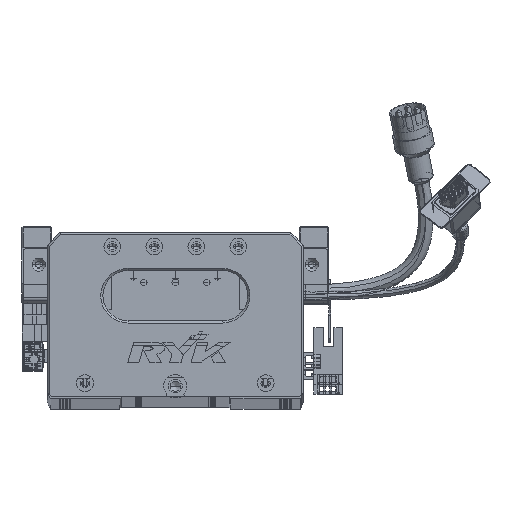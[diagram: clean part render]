
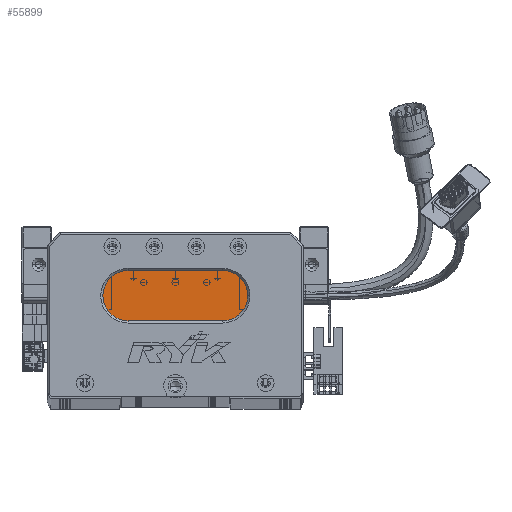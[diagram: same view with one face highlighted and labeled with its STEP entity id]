
A CAD part, top view. The second image highlights one B-rep face of the part: STEP entity #55899.
In plain terms, the highlighted planar face has unit normal (0, 0, 1) as drawn and (0, 0, -1) by its records, which use the part's own axes.
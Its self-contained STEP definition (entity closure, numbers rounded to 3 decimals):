
#5961 = LINE ( 'NONE', #99541, #85860 ) ;
#8367 = CIRCLE ( 'NONE', #51886, 12. ) ;
#11809 = CARTESIAN_POINT ( 'NONE',  ( 83.5, 48., 13. ) ) ;
#12390 = CIRCLE ( 'NONE', #79453, 12. ) ;
#15428 = CIRCLE ( 'NONE', #68297, 12. ) ;
#16461 = CARTESIAN_POINT ( 'NONE',  ( 26.5, 48., 13. ) ) ;
#21139 = FACE_OUTER_BOUND ( 'NONE', #52614, .T. ) ;
#23220 = VERTEX_POINT ( 'NONE', #16461 ) ;
#23917 = ORIENTED_EDGE ( 'NONE', *, *, #126110, .T. ) ;
#25923 = CARTESIAN_POINT ( 'NONE',  ( 38.5, 48., 13. ) ) ;
#26539 = DIRECTION ( 'NONE',  ( -1., 0., 0. ) ) ;
#26634 = DIRECTION ( 'NONE',  ( 1., 0., 0. ) ) ;
#27388 = DIRECTION ( 'NONE',  ( 0., 0., -1. ) ) ;
#28103 = ORIENTED_EDGE ( 'NONE', *, *, #41314, .T. ) ;
#31097 = EDGE_CURVE ( 'NONE', #64631, #60916, #93584, .T. ) ;
#41314 = EDGE_CURVE ( 'NONE', #23220, #64631, #12390, .T. ) ;
#42973 = ORIENTED_EDGE ( 'NONE', *, *, #31097, .T. ) ;
#43015 = CARTESIAN_POINT ( 'NONE',  ( 83.5, 60., 13. ) ) ;
#44607 = EDGE_CURVE ( 'NONE', #54154, #23220, #8367, .T. ) ;
#49102 = VECTOR ( 'NONE', #26634, 1000. ) ;
#51210 = CARTESIAN_POINT ( 'NONE',  ( 38.5, 48., 13. ) ) ;
#51886 = AXIS2_PLACEMENT_3D ( 'NONE', #51210, #101031, #52059 ) ;
#52059 = DIRECTION ( 'NONE',  ( -1., 0., 0. ) ) ;
#52614 = EDGE_LOOP ( 'NONE', ( #23917, #120368, #75549, #28103, #42973 ) ) ;
#54154 = VERTEX_POINT ( 'NONE', #120127 ) ;
#54360 = EDGE_CURVE ( 'NONE', #122594, #54154, #5961, .T. ) ;
#55483 = DIRECTION ( 'NONE',  ( 0., 0., -1. ) ) ;
#55899 = ADVANCED_FACE ( 'NONE', ( #21139 ), #95166, .T. ) ;
#59859 = DIRECTION ( 'NONE',  ( 0., 0., -1. ) ) ;
#60916 = VERTEX_POINT ( 'NONE', #43015 ) ;
#64631 = VERTEX_POINT ( 'NONE', #82601 ) ;
#68297 = AXIS2_PLACEMENT_3D ( 'NONE', #11809, #59859, #110087 ) ;
#73256 = DIRECTION ( 'NONE',  ( -1., 0., 0. ) ) ;
#73918 = DIRECTION ( 'NONE',  ( -1., 0., 0. ) ) ;
#75549 = ORIENTED_EDGE ( 'NONE', *, *, #44607, .T. ) ;
#76209 = CARTESIAN_POINT ( 'NONE',  ( 83.5, 48., 13. ) ) ;
#78183 = AXIS2_PLACEMENT_3D ( 'NONE', #76209, #27388, #26539 ) ;
#79453 = AXIS2_PLACEMENT_3D ( 'NONE', #25923, #55483, #73918 ) ;
#82601 = CARTESIAN_POINT ( 'NONE',  ( 38.5, 60., 13. ) ) ;
#85860 = VECTOR ( 'NONE', #73256, 1000. ) ;
#93584 = LINE ( 'NONE', #105152, #49102 ) ;
#95166 = PLANE ( 'NONE',  #78183 ) ;
#99541 = CARTESIAN_POINT ( 'NONE',  ( 83.5, 36., 13. ) ) ;
#101031 = DIRECTION ( 'NONE',  ( 0., 0., -1. ) ) ;
#101787 = CARTESIAN_POINT ( 'NONE',  ( 83.5, 36., 13. ) ) ;
#105152 = CARTESIAN_POINT ( 'NONE',  ( 83.5, 60., 13. ) ) ;
#110087 = DIRECTION ( 'NONE',  ( -1., 0., 0. ) ) ;
#120127 = CARTESIAN_POINT ( 'NONE',  ( 38.5, 36., 13. ) ) ;
#120368 = ORIENTED_EDGE ( 'NONE', *, *, #54360, .T. ) ;
#122594 = VERTEX_POINT ( 'NONE', #101787 ) ;
#126110 = EDGE_CURVE ( 'NONE', #60916, #122594, #15428, .T. ) ;
